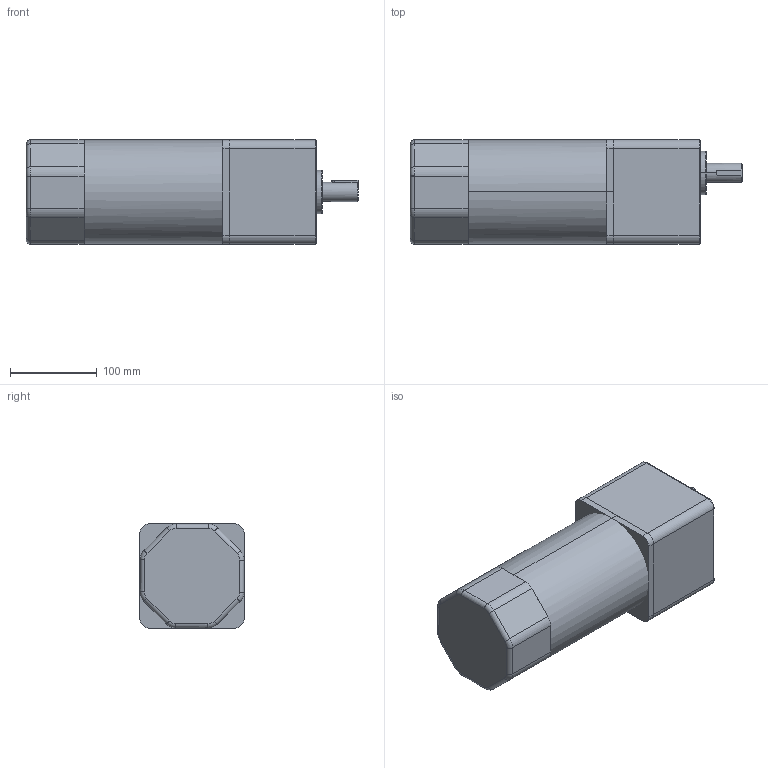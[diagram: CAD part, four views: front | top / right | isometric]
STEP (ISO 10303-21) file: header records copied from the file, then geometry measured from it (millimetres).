
FILE_DESCRIPTION (( 'STEP AP203' ), '1' );
FILE_NAME ('400W-(3-750K).STEP', '2018-04-13T06:49:36', ( '微软用户' ), ( '微软中国' ), 'SwSTEP 2.0', 'SolidWorks 2014', '' );
FILE_SCHEMA (( 'CONFIG_CONTROL_DESIGN' ));
Length unit declared in the file: millimetre
Products named in the file (1): 400W-(3-750K)
Bounding box: 383 x 120.19 x 120.19 mm (x, y, z)
Volume: 4262448.1 mm3; surface area: 226435.2 mm2
Topology: 4 solids, 4 shells, 115 faces, 268 edges, 160 vertices
Faces by surface type: cylinder 46, plane 41, torus 19, cone 9
Entity records: 3324 total; most frequent: DIRECTION 617, CARTESIAN_POINT 574, ORIENTED_EDGE 520, EDGE_CURVE 260, AXIS2_PLACEMENT_3D 245, VERTEX_POINT 160, CIRCLE 129, LINE 127
